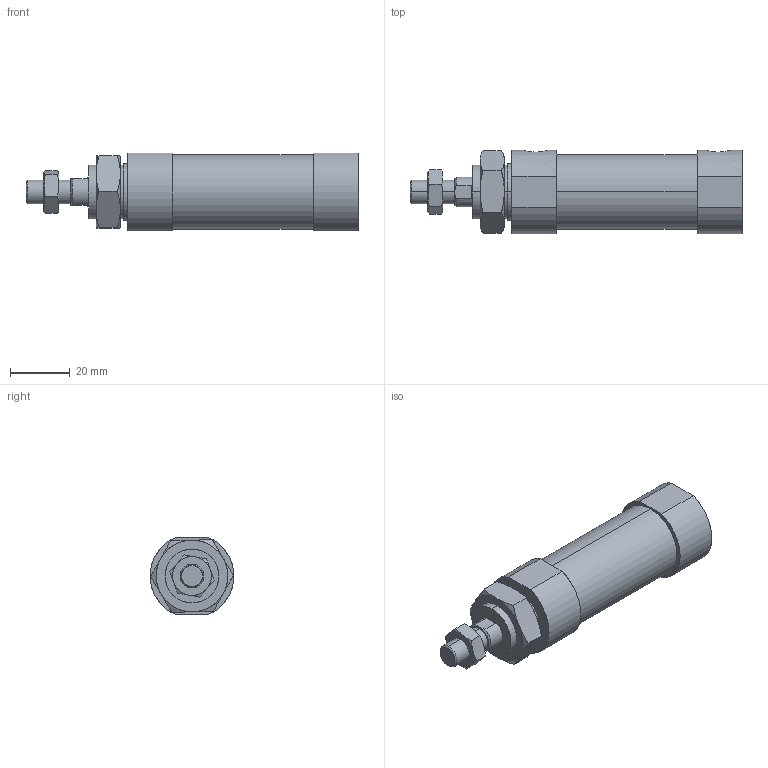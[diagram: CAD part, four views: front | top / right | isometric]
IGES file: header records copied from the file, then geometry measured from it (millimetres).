
Start section: SolidWorks IGES file using analytic representation for surfaces
Global section: file name: C:\Users\Toshiba\Desktop\JGND2-20-15-N.IGS; native system: SolidWorks 2014; preprocessor: SolidWorks 2014; author: Toshiba; date: 160804.102013; units: millimetre
Bounding box: 111 x 28 x 26 mm (x, y, z)
Surface area: 11897 mm2 (no closed solid volume)
Topology: 0 solids, 0 shells, 84 faces, 1468 edges, 1468 vertices
Faces by surface type: bspline 58, revolution 26
